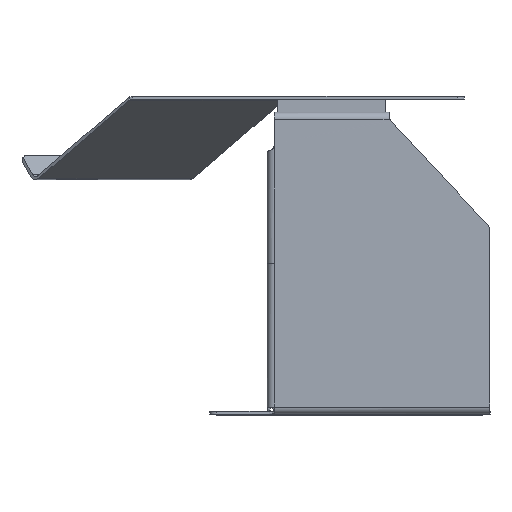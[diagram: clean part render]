
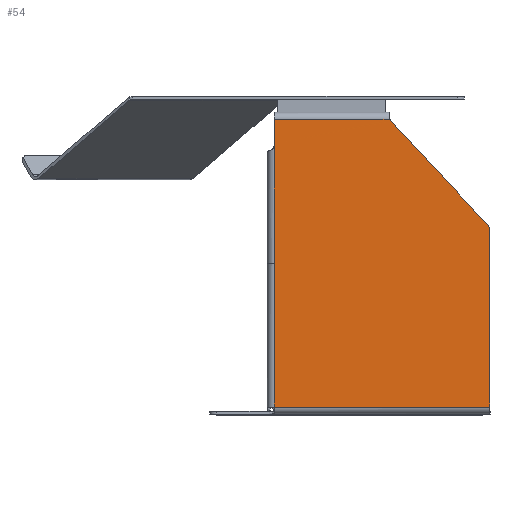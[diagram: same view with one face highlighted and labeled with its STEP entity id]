
A CAD part, front view. The second image highlights one B-rep face of the part: STEP entity #54.
In plain terms, the highlighted planar face has unit normal (0, 1, 0).
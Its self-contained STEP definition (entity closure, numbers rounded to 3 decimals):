
#54=ADVANCED_FACE('',(#145),#1422,.T.);
#145=FACE_OUTER_BOUND('',#236,.T.);
#236=EDGE_LOOP('',(#430,#431,#432,#433,#434,#435,#436,#437,#438));
#430=ORIENTED_EDGE('',*,*,#817,.F.);
#431=ORIENTED_EDGE('',*,*,#820,.T.);
#432=ORIENTED_EDGE('',*,*,#846,.T.);
#433=ORIENTED_EDGE('',*,*,#879,.F.);
#434=ORIENTED_EDGE('',*,*,#821,.T.);
#435=ORIENTED_EDGE('',*,*,#945,.T.);
#436=ORIENTED_EDGE('',*,*,#805,.F.);
#437=ORIENTED_EDGE('',*,*,#822,.T.);
#438=ORIENTED_EDGE('',*,*,#812,.T.);
#805=EDGE_CURVE('',#1259,#1260,#1051,.T.);
#812=EDGE_CURVE('',#1267,#1268,#1055,.T.);
#817=EDGE_CURVE('',#1270,#1268,#1060,.T.);
#820=EDGE_CURVE('',#1270,#1272,#1063,.T.);
#821=EDGE_CURVE('',#1274,#1275,#1064,.T.);
#822=EDGE_CURVE('',#1259,#1267,#992,.T.);
#846=EDGE_CURVE('',#1272,#1273,#1086,.T.);
#879=EDGE_CURVE('',#1274,#1273,#1119,.T.);
#945=EDGE_CURVE('',#1275,#1260,#1182,.T.);
#992=(
BOUNDED_CURVE()
B_SPLINE_CURVE(3,(#4165,#4166,#4167,#4168),.UNSPECIFIED.,.F.,.F.)
B_SPLINE_CURVE_WITH_KNOTS((4,4),(-166.603,-5.627),
 .UNSPECIFIED.)
CURVE()
GEOMETRIC_REPRESENTATION_ITEM()
RATIONAL_B_SPLINE_CURVE((1.,1.,1.,1.))
REPRESENTATION_ITEM('')
);
#1051=B_SPLINE_CURVE_WITH_KNOTS('',1,(#4104,#4105),.UNSPECIFIED.,.F.,.F.,
(2,2),(0.,34.),.UNSPECIFIED.);
#1055=B_SPLINE_CURVE_WITH_KNOTS('',3,(#4129,#4130,#4131,#4132),
 .UNSPECIFIED.,.F.,.F.,(4,4),(6.516,9.45),
 .UNSPECIFIED.);
#1060=B_SPLINE_CURVE_WITH_KNOTS('',3,(#4149,#4150,#4151,#4152),
 .UNSPECIFIED.,.F.,.F.,(4,4),(896.51,1093.808),
 .UNSPECIFIED.);
#1063=B_SPLINE_CURVE_WITH_KNOTS('',3,(#4159,#4160,#4161,#4162),
 .UNSPECIFIED.,.F.,.F.,(4,4),(0.,7.509),.UNSPECIFIED.);
#1064=B_SPLINE_CURVE_WITH_KNOTS('',1,(#4163,#4164),.UNSPECIFIED.,.F.,.F.,
(2,2),(0.,200.),.UNSPECIFIED.);
#1086=B_SPLINE_CURVE_WITH_KNOTS('',1,(#4236,#4237),.UNSPECIFIED.,.F.,.F.,
(2,2),(153.942,400.),.UNSPECIFIED.);
#1119=B_SPLINE_CURVE_WITH_KNOTS('',1,(#4360,#4361),.UNSPECIFIED.,.F.,.F.,
(2,2),(-300.,0.),.UNSPECIFIED.);
#1182=B_SPLINE_CURVE_WITH_KNOTS('',1,(#4735,#4736),.UNSPECIFIED.,.F.,.F.,
(2,2),(200.,366.),.UNSPECIFIED.);
#1259=VERTEX_POINT('',#4011);
#1260=VERTEX_POINT('',#4012);
#1267=VERTEX_POINT('',#4019);
#1268=VERTEX_POINT('',#4020);
#1270=VERTEX_POINT('',#4022);
#1272=VERTEX_POINT('',#4024);
#1273=VERTEX_POINT('',#4025);
#1274=VERTEX_POINT('',#4026);
#1275=VERTEX_POINT('',#4027);
#1422=PLANE('',#1570);
#1570=AXIS2_PLACEMENT_3D('',#1994,#1645,$);
#1645=DIRECTION('',(0.,1.,0.));
#1994=CARTESIAN_POINT('',(350.918,56.48,12.));
#4011=CARTESIAN_POINT('',(350.918,56.48,412.));
#4012=CARTESIAN_POINT('',(350.918,56.48,378.));
#4019=CARTESIAN_POINT('',(511.895,56.48,412.));
#4020=CARTESIAN_POINT('',(513.608,56.48,409.118));
#4022=CARTESIAN_POINT('',(648.229,56.48,264.882));
#4024=CARTESIAN_POINT('',(650.918,56.48,258.058));
#4025=CARTESIAN_POINT('',(650.918,56.48,12.));
#4026=CARTESIAN_POINT('',(350.918,56.48,12.));
#4027=CARTESIAN_POINT('',(350.918,56.48,212.));
#4104=CARTESIAN_POINT('',(350.918,56.48,412.));
#4105=CARTESIAN_POINT('',(350.918,56.48,378.));
#4129=CARTESIAN_POINT('',(511.895,56.48,412.));
#4130=CARTESIAN_POINT('',(512.279,56.454,410.94));
#4131=CARTESIAN_POINT('',(512.811,56.511,409.937));
#4132=CARTESIAN_POINT('',(513.608,56.48,409.118));
#4149=CARTESIAN_POINT('',(648.229,56.48,264.882));
#4150=CARTESIAN_POINT('',(603.375,56.48,312.939));
#4151=CARTESIAN_POINT('',(558.494,56.48,361.025));
#4152=CARTESIAN_POINT('',(513.608,56.48,409.118));
#4159=CARTESIAN_POINT('',(648.229,56.48,264.882));
#4160=CARTESIAN_POINT('',(649.957,56.48,263.03));
#4161=CARTESIAN_POINT('',(650.918,56.48,260.591));
#4162=CARTESIAN_POINT('',(650.918,56.48,258.058));
#4163=CARTESIAN_POINT('',(350.918,56.48,12.));
#4164=CARTESIAN_POINT('',(350.918,56.48,212.));
#4165=CARTESIAN_POINT('',(350.918,56.48,412.));
#4166=CARTESIAN_POINT('',(404.577,56.48,412.));
#4167=CARTESIAN_POINT('',(458.236,56.48,412.));
#4168=CARTESIAN_POINT('',(511.895,56.48,412.));
#4236=CARTESIAN_POINT('',(650.918,56.48,258.058));
#4237=CARTESIAN_POINT('',(650.918,56.48,12.));
#4360=CARTESIAN_POINT('',(350.918,56.48,12.));
#4361=CARTESIAN_POINT('',(650.918,56.48,12.));
#4735=CARTESIAN_POINT('',(350.918,56.48,212.));
#4736=CARTESIAN_POINT('',(350.918,56.48,378.));
